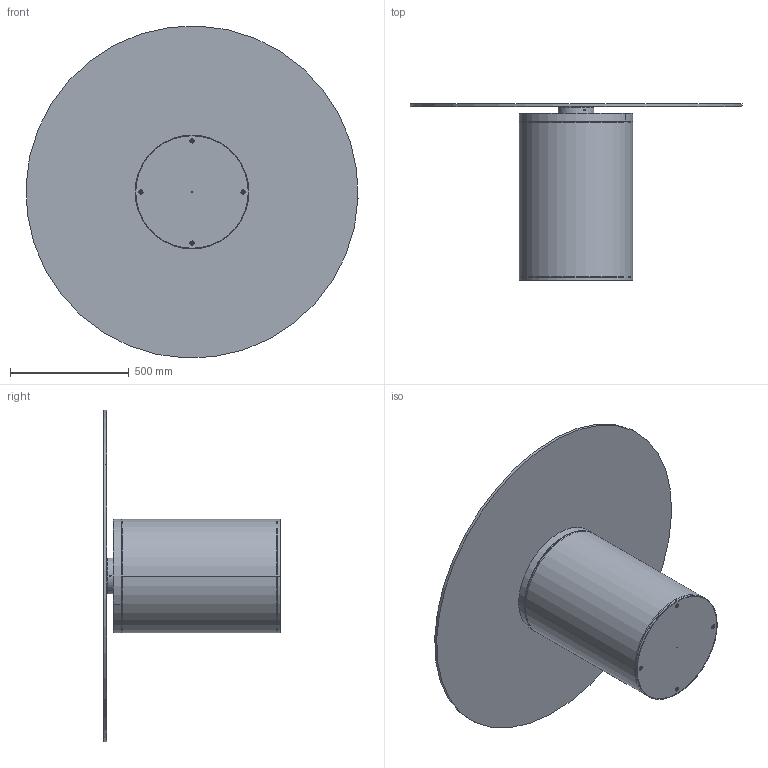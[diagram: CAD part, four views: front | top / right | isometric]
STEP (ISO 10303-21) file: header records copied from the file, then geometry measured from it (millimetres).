
FILE_DESCRIPTION (( 'STEP AP203' ), '1' );
FILE_NAME ('CI06G.STEP', '2024-08-08T06:49:42', ( '' ), ( '' ), 'SwSTEP 2.0', 'SolidWorks 2022', '' );
FILE_SCHEMA (( 'CONFIG_CONTROL_DESIGN' ));
Length unit declared in the file: millimetre
Products named in the file (14): PIASTRE DOPPIE D.150 PER TRASPARENTE FEMMINA_Ø150; M8xXXmm_hex_M8X20mm; CI06G; M8xXXmm_M8x10mm; CIB000000_02-01-ZAVORRA IN FERRO D.480mm; CIB000000BAR-00-BARRA PER CILINDRO TRASPARENTE_Default<A macchina>; C1XCRMXX-00-piani Rotondi Cristallo TRASPARENTE_C06 D.140cm; CIB000000-00-CILINDRO BASE D.480mm_SENZA PIASTRA; CIB000000_01-00-struttura cilindro D.480mm; PIASTRE DOPPIE D.150 PER TRASPARENTE MASCHIO_Ø150; M8xXXmm_hex_M8X55mm; CXXCRXXD-01-Piani Rotondi in Cristallo CON DISCO_C06CR0CI PIANO CRISTALLO Ø140cm CILINDRO; CIB000000SPE-00-SPESSORE PER CILINDRO TRASPARENTE; Grano M6_M6x14
Assembly tree (23 placements, depth 3):
  CI06G
    CXXCRXXD-01-Piani Rotondi in Cristallo CON DISCO_C06CR0CI PIANO CRISTALLO Ø140cm CILINDRO
      C1XCRMXX-00-piani Rotondi Cristallo TRASPARENTE_C06 D.140cm
      PIASTRE DOPPIE D.150 PER TRASPARENTE MASCHIO_Ø150
    CIB000000-00-CILINDRO BASE D.480mm_SENZA PIASTRA
      CIB000000_01-00-struttura cilindro D.480mm
      CIB000000_02-01-ZAVORRA IN FERRO D.480mm
      M8xXXmm_hex_M8X20mm  x4
    CIB000000SPE-00-SPESSORE PER CILINDRO TRASPARENTE
    CIB000000BAR-00-BARRA PER CILINDRO TRASPARENTE_Default<A macchina>
    PIASTRE DOPPIE D.150 PER TRASPARENTE FEMMINA_Ø150
    M8xXXmm_hex_M8X55mm  x3
    M8xXXmm_M8x10mm  x4
    Grano M6_M6x14  x3
Bounding box: 1398.96 x 744 x 1398.96 mm (x, y, z)
Volume: 29868524.3 mm3; surface area: 6402495.5 mm2
Topology: 26 solids, 26 shells, 711 faces, 1606 edges, 936 vertices
Faces by surface type: plane 282, cylinder 252, cone 124, torus 30, sphere 14, bspline 9
Entity records: 14669 total; most frequent: CARTESIAN_POINT 4588, DIRECTION 1865, ORIENTED_EDGE 1636, EDGE_CURVE 818, AXIS2_PLACEMENT_3D 754, VERTEX_POINT 495, EDGE_LOOP 435, CIRCLE 369
